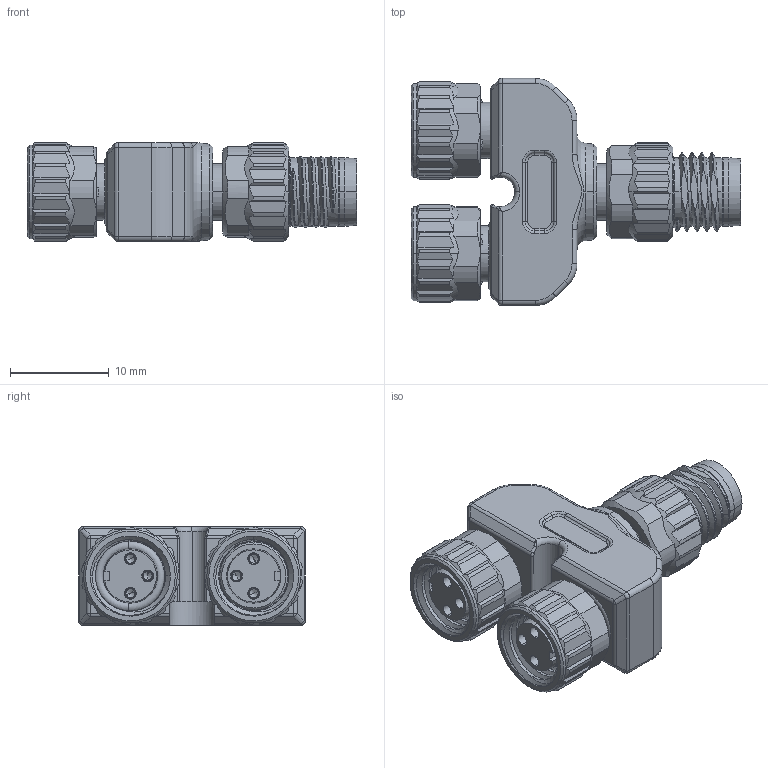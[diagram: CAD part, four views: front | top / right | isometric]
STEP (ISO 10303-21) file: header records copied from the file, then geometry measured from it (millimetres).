
FILE_DESCRIPTION((''),'2;1');
FILE_NAME('633301','2022-06-30T',('PC'),(''),'PRO/ENGINEER BY PARAMETRIC TECHNOLOGY CORPORATION, 2009220','PRO/ENGINEER BY PARAMETRIC TECHNOLOGY CORPORATION, 2009220','');
FILE_SCHEMA(('CONFIG_CONTROL_DESIGN'));
Length unit declared in the file: millimetre
Products named in the file (1): 633301
Bounding box: 33.4 x 23 x 10 mm (x, y, z)
Surface area: 4189 mm2
Topology: 10 solids, 11 shells, 1295 faces, 3703 edges, 2425 vertices
Faces by surface type: cylinder 518, plane 488, cone 191, torus 51, bspline 39, sphere 8
Entity records: 49575 total; most frequent: CARTESIAN_POINT 16475, ORIENTED_EDGE 7345, DIRECTION 6579, EDGE_CURVE 3691, AXIS2_PLACEMENT_3D 2591, VERTEX_POINT 2425, VECTOR 1397, LINE 1397
